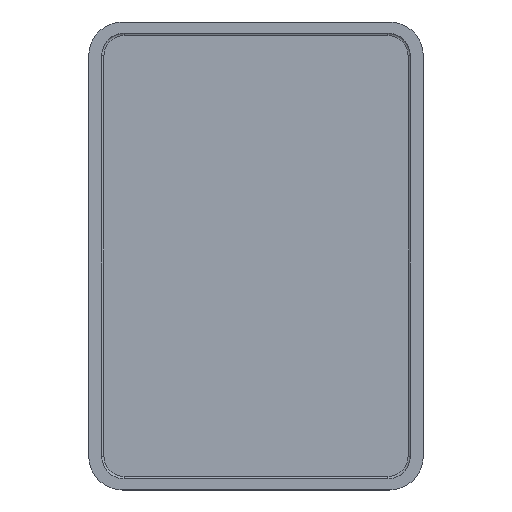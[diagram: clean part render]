
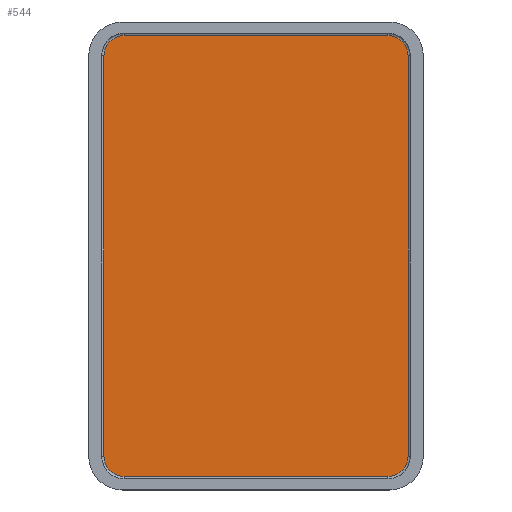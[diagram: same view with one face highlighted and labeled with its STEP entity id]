
A CAD part, top view. The second image highlights one B-rep face of the part: STEP entity #544.
In plain terms, the highlighted planar face has unit normal (0, 0, 1).
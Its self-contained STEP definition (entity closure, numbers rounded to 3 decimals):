
#4 = CIRCLE ( 'NONE', #606, 1.809 ) ;
#32 = ORIENTED_EDGE ( 'NONE', *, *, #739, .T. ) ;
#33 = VERTEX_POINT ( 'NONE', #1048 ) ;
#37 = CARTESIAN_POINT ( 'NONE',  ( 13.191, -19.748, -1.105 ) ) ;
#43 = EDGE_CURVE ( 'NONE', #946, #638, #1001, .T. ) ;
#47 = LINE ( 'NONE', #721, #144 ) ;
#58 = EDGE_CURVE ( 'NONE', #624, #455, #796, .T. ) ;
#60 = CARTESIAN_POINT ( 'NONE',  ( 11.382, 0., -1.105 ) ) ;
#70 = EDGE_CURVE ( 'NONE', #455, #1034, #655, .T. ) ;
#71 = CARTESIAN_POINT ( 'NONE',  ( 11.382, 17.939, -1.105 ) ) ;
#79 = DIRECTION ( 'NONE',  ( 0., 0., 1. ) ) ;
#100 = DIRECTION ( 'NONE',  ( -1., 0., 0. ) ) ;
#109 = DIRECTION ( 'NONE',  ( 0., -1., 0. ) ) ;
#113 = VERTEX_POINT ( 'NONE', #956 ) ;
#119 = LINE ( 'NONE', #474, #972 ) ;
#135 = DIRECTION ( 'NONE',  ( 0., 0., 1. ) ) ;
#140 = ORIENTED_EDGE ( 'NONE', *, *, #759, .T. ) ;
#142 = DIRECTION ( 'NONE',  ( 1., 0., 0. ) ) ;
#144 = VECTOR ( 'NONE', #142, 1000. ) ;
#179 = VECTOR ( 'NONE', #241, 1000. ) ;
#190 = DIRECTION ( 'NONE',  ( 0., 0., -1. ) ) ;
#231 = CARTESIAN_POINT ( 'NONE',  ( 13.191, -17.939, -1.105 ) ) ;
#234 = AXIS2_PLACEMENT_3D ( 'NONE', #231, #1050, #393 ) ;
#241 = DIRECTION ( 'NONE',  ( 0., -1., 0. ) ) ;
#256 = EDGE_CURVE ( 'NONE', #33, #113, #4, .T. ) ;
#324 = DIRECTION ( 'NONE',  ( 0., 0., 1. ) ) ;
#349 = CARTESIAN_POINT ( 'NONE',  ( 13.191, 19.748, -1.105 ) ) ;
#353 = VECTOR ( 'NONE', #100, 1000. ) ;
#361 = CARTESIAN_POINT ( 'NONE',  ( 25., 19.748, -1.105 ) ) ;
#391 = CARTESIAN_POINT ( 'NONE',  ( 13.191, 17.939, -1.105 ) ) ;
#393 = DIRECTION ( 'NONE',  ( -1., 0., 0. ) ) ;
#415 = DIRECTION ( 'NONE',  ( -1., 0., 0. ) ) ;
#431 = CARTESIAN_POINT ( 'NONE',  ( 25., 0., -1.105 ) ) ;
#452 = DIRECTION ( 'NONE',  ( 0., 1., 0. ) ) ;
#455 = VERTEX_POINT ( 'NONE', #71 ) ;
#472 = DIRECTION ( 'NONE',  ( -1., 0., 0. ) ) ;
#474 = CARTESIAN_POINT ( 'NONE',  ( 38.618, 0., -1.105 ) ) ;
#484 = EDGE_LOOP ( 'NONE', ( #945, #534, #1062, #32, #701, #140, #733, #625 ) ) ;
#505 = AXIS2_PLACEMENT_3D ( 'NONE', #973, #135, #553 ) ;
#506 = FACE_OUTER_BOUND ( 'NONE', #484, .T. ) ;
#531 = PLANE ( 'NONE',  #735 ) ;
#534 = ORIENTED_EDGE ( 'NONE', *, *, #70, .T. ) ;
#536 = EDGE_CURVE ( 'NONE', #113, #624, #923, .T. ) ;
#544 = ADVANCED_FACE ( 'NONE', ( #506 ), #531, .F. ) ;
#553 = DIRECTION ( 'NONE',  ( -1., 0., 0. ) ) ;
#606 = AXIS2_PLACEMENT_3D ( 'NONE', #920, #79, #415 ) ;
#624 = VERTEX_POINT ( 'NONE', #349 ) ;
#625 = ORIENTED_EDGE ( 'NONE', *, *, #536, .T. ) ;
#638 = VERTEX_POINT ( 'NONE', #671 ) ;
#644 = AXIS2_PLACEMENT_3D ( 'NONE', #391, #324, #472 ) ;
#655 = LINE ( 'NONE', #60, #179 ) ;
#671 = CARTESIAN_POINT ( 'NONE',  ( 38.618, -17.939, -1.105 ) ) ;
#701 = ORIENTED_EDGE ( 'NONE', *, *, #43, .T. ) ;
#719 = VERTEX_POINT ( 'NONE', #37 ) ;
#721 = CARTESIAN_POINT ( 'NONE',  ( 25., -19.748, -1.105 ) ) ;
#730 = CARTESIAN_POINT ( 'NONE',  ( 36.809, -19.748, -1.105 ) ) ;
#733 = ORIENTED_EDGE ( 'NONE', *, *, #256, .T. ) ;
#735 = AXIS2_PLACEMENT_3D ( 'NONE', #431, #190, #109 ) ;
#739 = EDGE_CURVE ( 'NONE', #719, #946, #47, .T. ) ;
#759 = EDGE_CURVE ( 'NONE', #638, #33, #119, .T. ) ;
#796 = CIRCLE ( 'NONE', #644, 1.809 ) ;
#891 = EDGE_CURVE ( 'NONE', #1034, #719, #992, .T. ) ;
#920 = CARTESIAN_POINT ( 'NONE',  ( 36.809, 17.939, -1.105 ) ) ;
#923 = LINE ( 'NONE', #361, #353 ) ;
#945 = ORIENTED_EDGE ( 'NONE', *, *, #58, .T. ) ;
#946 = VERTEX_POINT ( 'NONE', #730 ) ;
#956 = CARTESIAN_POINT ( 'NONE',  ( 36.809, 19.748, -1.105 ) ) ;
#972 = VECTOR ( 'NONE', #452, 1000. ) ;
#973 = CARTESIAN_POINT ( 'NONE',  ( 36.809, -17.939, -1.105 ) ) ;
#985 = CARTESIAN_POINT ( 'NONE',  ( 11.382, -17.939, -1.105 ) ) ;
#992 = CIRCLE ( 'NONE', #234, 1.809 ) ;
#1001 = CIRCLE ( 'NONE', #505, 1.809 ) ;
#1034 = VERTEX_POINT ( 'NONE', #985 ) ;
#1048 = CARTESIAN_POINT ( 'NONE',  ( 38.618, 17.939, -1.105 ) ) ;
#1050 = DIRECTION ( 'NONE',  ( 0., 0., 1. ) ) ;
#1062 = ORIENTED_EDGE ( 'NONE', *, *, #891, .T. ) ;
